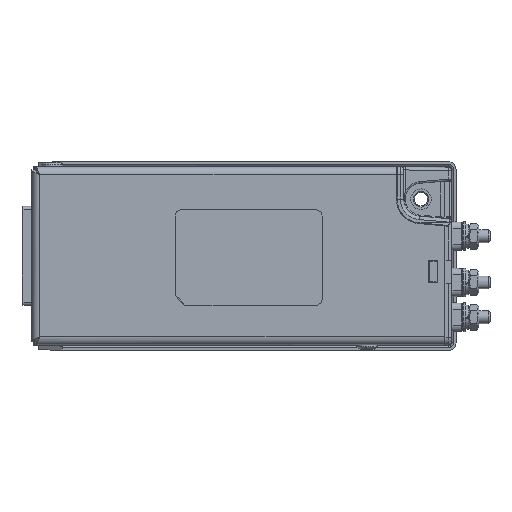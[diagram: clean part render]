
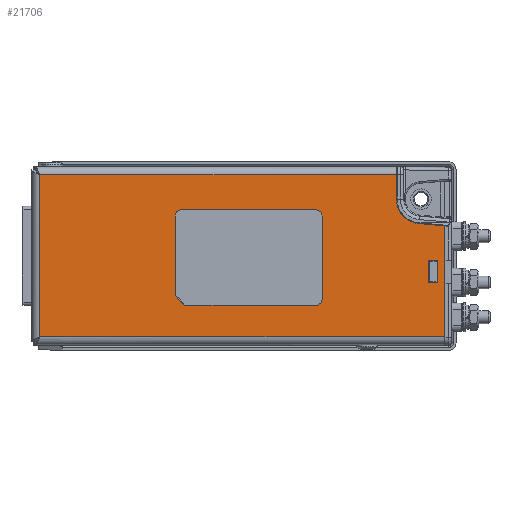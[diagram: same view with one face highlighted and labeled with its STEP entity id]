
A CAD part, top view. The second image highlights one B-rep face of the part: STEP entity #21706.
In plain terms, the highlighted planar face has unit normal (0, 0, 1).
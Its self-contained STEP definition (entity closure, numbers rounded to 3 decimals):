
#532=FACE_BOUND('',#3487,.T.);
#533=FACE_BOUND('',#3488,.T.);
#1025=PLANE('',#23915);
#2210=FACE_OUTER_BOUND('',#3486,.T.);
#3486=EDGE_LOOP('',(#18707,#18708,#18709,#18710,#18711,#18712,#18713,#18714));
#3487=EDGE_LOOP('',(#18715,#18716,#18717,#18718));
#3488=EDGE_LOOP('',(#18719,#18720,#18721,#18722,#18723,#18724,#18725,#18726,
#18727,#18728));
#4621=CIRCLE('',#23800,2.);
#4622=CIRCLE('',#23803,2.);
#4623=CIRCLE('',#23806,2.);
#4640=CIRCLE('',#23916,7.5);
#6112=LINE('',#39278,#7803);
#6115=LINE('',#39284,#7806);
#6117=LINE('',#39289,#7808);
#6121=LINE('',#39298,#7812);
#6124=LINE('',#39306,#7815);
#6164=LINE('',#39392,#7855);
#6167=LINE('',#39396,#7858);
#6280=LINE('',#39666,#7971);
#6283=LINE('',#39762,#7974);
#6287=LINE('',#39850,#7978);
#6330=LINE('',#40132,#8021);
#6331=LINE('',#40136,#8022);
#6332=LINE('',#40138,#8023);
#6333=LINE('',#40141,#8024);
#6334=LINE('',#40144,#8025);
#6335=LINE('',#40146,#8026);
#6336=LINE('',#40148,#8027);
#6337=LINE('',#40149,#8028);
#7803=VECTOR('',#29493,10.);
#7806=VECTOR('',#29498,10.);
#7808=VECTOR('',#29502,10.);
#7812=VECTOR('',#29512,10.);
#7815=VECTOR('',#29521,10.);
#7855=VECTOR('',#29581,10.);
#7858=VECTOR('',#29586,10.);
#7971=VECTOR('',#29799,10.);
#7974=VECTOR('',#29806,10.);
#7978=VECTOR('',#29812,10.);
#8021=VECTOR('',#29945,10.);
#8022=VECTOR('',#29950,10.);
#8023=VECTOR('',#29951,10.);
#8024=VECTOR('',#29954,10.);
#8025=VECTOR('',#29955,10.);
#8026=VECTOR('',#29956,10.);
#8027=VECTOR('',#29957,10.);
#8028=VECTOR('',#29958,10.);
#9719=VERTEX_POINT('',#39274);
#9720=VERTEX_POINT('',#39276);
#9721=VERTEX_POINT('',#39280);
#9722=VERTEX_POINT('',#39282);
#9723=VERTEX_POINT('',#39286);
#9724=VERTEX_POINT('',#39288);
#9725=VERTEX_POINT('',#39292);
#9726=VERTEX_POINT('',#39296);
#9727=VERTEX_POINT('',#39300);
#9728=VERTEX_POINT('',#39304);
#9758=VERTEX_POINT('',#39374);
#9827=VERTEX_POINT('',#39652);
#9836=VERTEX_POINT('',#39761);
#9840=VERTEX_POINT('',#39849);
#9870=VERTEX_POINT('',#40130);
#9871=VERTEX_POINT('',#40135);
#9872=VERTEX_POINT('',#40137);
#9873=VERTEX_POINT('',#40139);
#9874=VERTEX_POINT('',#40142);
#9875=VERTEX_POINT('',#40143);
#9876=VERTEX_POINT('',#40145);
#9877=VERTEX_POINT('',#40147);
#12591=EDGE_CURVE('',#9720,#9719,#6112,.T.);
#12594=EDGE_CURVE('',#9722,#9720,#6115,.T.);
#12596=EDGE_CURVE('',#9723,#9724,#6117,.T.);
#12599=EDGE_CURVE('',#9725,#9723,#4621,.T.);
#12601=EDGE_CURVE('',#9726,#9725,#6121,.T.);
#12603=EDGE_CURVE('',#9727,#9726,#4622,.T.);
#12605=EDGE_CURVE('',#9728,#9727,#6124,.T.);
#12606=EDGE_CURVE('',#9719,#9728,#4623,.T.);
#12649=EDGE_CURVE('',#9721,#9722,#6164,.T.);
#12652=EDGE_CURVE('',#9724,#9721,#6167,.T.);
#12769=EDGE_CURVE('',#9827,#9758,#6280,.T.);
#12779=EDGE_CURVE('',#9836,#9827,#6283,.T.);
#12787=EDGE_CURVE('',#9840,#9836,#6287,.T.);
#12854=EDGE_CURVE('',#9870,#9758,#6330,.T.);
#12855=EDGE_CURVE('',#9871,#9870,#6331,.T.);
#12856=EDGE_CURVE('',#9871,#9872,#6332,.T.);
#12857=EDGE_CURVE('',#9872,#9873,#4640,.T.);
#12858=EDGE_CURVE('',#9873,#9840,#6333,.T.);
#12859=EDGE_CURVE('',#9874,#9875,#6334,.T.);
#12860=EDGE_CURVE('',#9875,#9876,#6335,.T.);
#12861=EDGE_CURVE('',#9876,#9877,#6336,.T.);
#12862=EDGE_CURVE('',#9877,#9874,#6337,.T.);
#18707=ORIENTED_EDGE('',*,*,#12779,.T.);
#18708=ORIENTED_EDGE('',*,*,#12769,.T.);
#18709=ORIENTED_EDGE('',*,*,#12854,.F.);
#18710=ORIENTED_EDGE('',*,*,#12855,.F.);
#18711=ORIENTED_EDGE('',*,*,#12856,.T.);
#18712=ORIENTED_EDGE('',*,*,#12857,.T.);
#18713=ORIENTED_EDGE('',*,*,#12858,.T.);
#18714=ORIENTED_EDGE('',*,*,#12787,.T.);
#18715=ORIENTED_EDGE('',*,*,#12859,.T.);
#18716=ORIENTED_EDGE('',*,*,#12860,.T.);
#18717=ORIENTED_EDGE('',*,*,#12861,.T.);
#18718=ORIENTED_EDGE('',*,*,#12862,.T.);
#18719=ORIENTED_EDGE('',*,*,#12596,.F.);
#18720=ORIENTED_EDGE('',*,*,#12599,.F.);
#18721=ORIENTED_EDGE('',*,*,#12601,.F.);
#18722=ORIENTED_EDGE('',*,*,#12603,.F.);
#18723=ORIENTED_EDGE('',*,*,#12605,.F.);
#18724=ORIENTED_EDGE('',*,*,#12606,.F.);
#18725=ORIENTED_EDGE('',*,*,#12591,.F.);
#18726=ORIENTED_EDGE('',*,*,#12594,.F.);
#18727=ORIENTED_EDGE('',*,*,#12649,.F.);
#18728=ORIENTED_EDGE('',*,*,#12652,.F.);
#21706=ADVANCED_FACE('',(#2210,#532,#533),#1025,.T.);
#23800=AXIS2_PLACEMENT_3D('',#39294,#29507,#29508);
#23803=AXIS2_PLACEMENT_3D('',#39302,#29516,#29517);
#23806=AXIS2_PLACEMENT_3D('',#39308,#29524,#29525);
#23915=AXIS2_PLACEMENT_3D('',#40134,#29948,#29949);
#23916=AXIS2_PLACEMENT_3D('',#40140,#29952,#29953);
#29493=DIRECTION('',(1.,0.,0.));
#29498=DIRECTION('',(0.707,-0.707,0.));
#29502=DIRECTION('',(0.,-1.,0.));
#29507=DIRECTION('center_axis',(0.,0.,
1.));
#29508=DIRECTION('ref_axis',(-0.707,0.707,0.));
#29512=DIRECTION('',(-1.,0.,0.));
#29516=DIRECTION('center_axis',(0.,0.,
1.));
#29517=DIRECTION('ref_axis',(0.707,0.707,0.));
#29521=DIRECTION('',(0.,1.,0.));
#29524=DIRECTION('center_axis',(0.,0.,
1.));
#29525=DIRECTION('ref_axis',(0.707,-0.707,0.));
#29581=DIRECTION('',(0.707,-0.707,0.));
#29586=DIRECTION('',(0.,-1.,0.));
#29799=DIRECTION('',(1.,0.,0.));
#29806=DIRECTION('',(0.,-1.,0.));
#29812=DIRECTION('',(-1.,0.,0.));
#29945=DIRECTION('',(0.,-1.,0.));
#29948=DIRECTION('center_axis',(0.,0.,
1.));
#29949=DIRECTION('ref_axis',(0.,-1.,0.));
#29950=DIRECTION('',(0.676,-0.737,0.));
#29951=DIRECTION('',(-0.996,0.087,0.));
#29952=DIRECTION('center_axis',(0.,0.,
-1.));
#29953=DIRECTION('ref_axis',(-1.,0.,0.));
#29954=DIRECTION('',(0.,1.,0.));
#29955=DIRECTION('',(-1.,0.,0.));
#29956=DIRECTION('',(0.,1.,0.));
#29957=DIRECTION('',(1.,0.,0.));
#29958=DIRECTION('',(0.,-1.,0.));
#39274=CARTESIAN_POINT('',(3.9,-15.525,34.9));
#39276=CARTESIAN_POINT('',(-37.1,-15.525,34.9));
#39278=CARTESIAN_POINT('',(-40.1,-15.525,34.9));
#39280=CARTESIAN_POINT('',(-40.1,-12.525,34.9));
#39282=CARTESIAN_POINT('',(-37.625,-15.,34.9));
#39284=CARTESIAN_POINT('',(-36.6,-16.025,34.9));
#39286=CARTESIAN_POINT('',(-40.1,12.475,34.9));
#39288=CARTESIAN_POINT('',(-40.1,-9.025,34.9));
#39289=CARTESIAN_POINT('',(-40.1,14.475,34.9));
#39292=CARTESIAN_POINT('',(-38.1,14.475,34.9));
#39294=CARTESIAN_POINT('Origin',(-38.1,12.475,34.9));
#39296=CARTESIAN_POINT('',(3.9,14.475,34.9));
#39298=CARTESIAN_POINT('',(5.9,14.475,34.9));
#39300=CARTESIAN_POINT('',(5.9,12.475,34.9));
#39302=CARTESIAN_POINT('Origin',(3.9,12.475,34.9));
#39304=CARTESIAN_POINT('',(5.9,-13.525,34.9));
#39306=CARTESIAN_POINT('',(5.9,-15.525,34.9));
#39308=CARTESIAN_POINT('Origin',(3.9,-13.525,34.9));
#39374=CARTESIAN_POINT('',(44.2,-25.4,34.9));
#39392=CARTESIAN_POINT('',(-36.6,-16.025,34.9));
#39396=CARTESIAN_POINT('',(-40.1,14.475,34.9));
#39652=CARTESIAN_POINT('',(-82.6,-25.4,34.9));
#39666=CARTESIAN_POINT('',(-52.775,-25.4,34.9));
#39761=CARTESIAN_POINT('',(-82.6,25.4,34.9));
#39762=CARTESIAN_POINT('',(-82.6,-12.7,34.9));
#39849=CARTESIAN_POINT('',(29.2,25.4,34.9));
#39850=CARTESIAN_POINT('',(11.875,25.4,34.9));
#40130=CARTESIAN_POINT('',(44.2,8.915,34.9));
#40132=CARTESIAN_POINT('',(44.2,27.9,34.9));
#40134=CARTESIAN_POINT('Origin',(-20.45,0.,
34.9));
#40135=CARTESIAN_POINT('',(43.702,9.459,34.9));
#40136=CARTESIAN_POINT('',(31.542,22.729,34.9));
#40137=CARTESIAN_POINT('',(36.046,10.129,34.9));
#40138=CARTESIAN_POINT('',(12.529,12.186,34.9));
#40139=CARTESIAN_POINT('',(29.2,17.6,34.9));
#40140=CARTESIAN_POINT('Origin',(36.7,17.6,34.9));
#40141=CARTESIAN_POINT('',(29.2,8.8,34.9));
#40142=CARTESIAN_POINT('',(42.2,-8.5,34.9));
#40143=CARTESIAN_POINT('',(39.2,-8.5,34.9));
#40144=CARTESIAN_POINT('',(10.875,-8.5,34.9));
#40145=CARTESIAN_POINT('',(39.2,-1.5,34.9));
#40146=CARTESIAN_POINT('',(39.2,-4.25,34.9));
#40147=CARTESIAN_POINT('',(42.2,-1.5,34.9));
#40148=CARTESIAN_POINT('',(9.375,-1.5,34.9));
#40149=CARTESIAN_POINT('',(42.2,-0.75,34.9));
